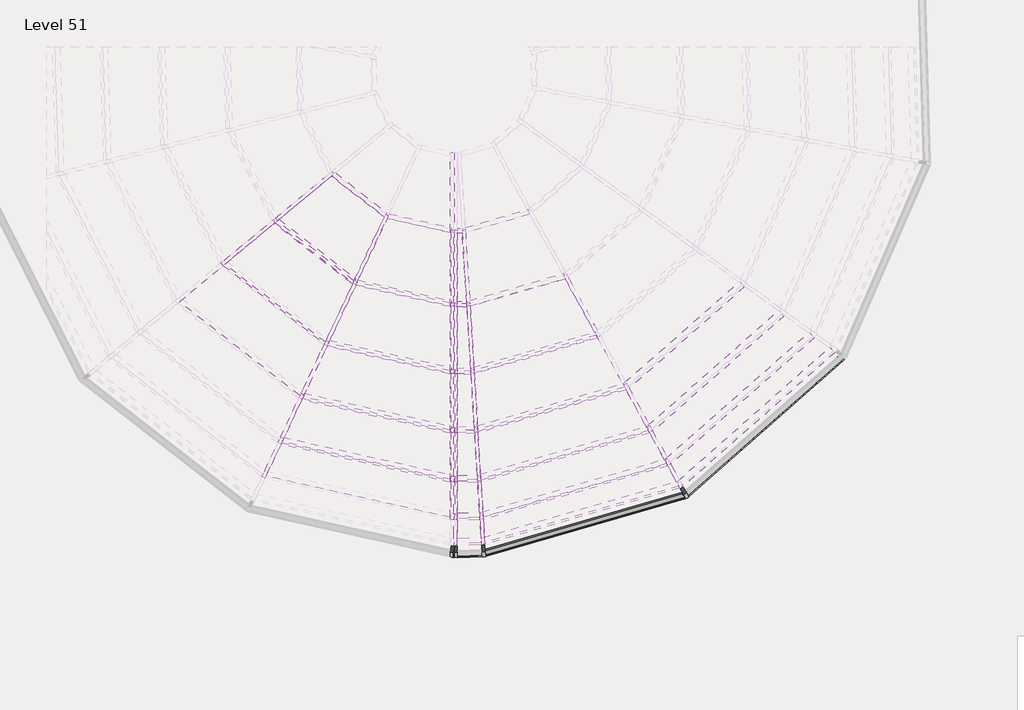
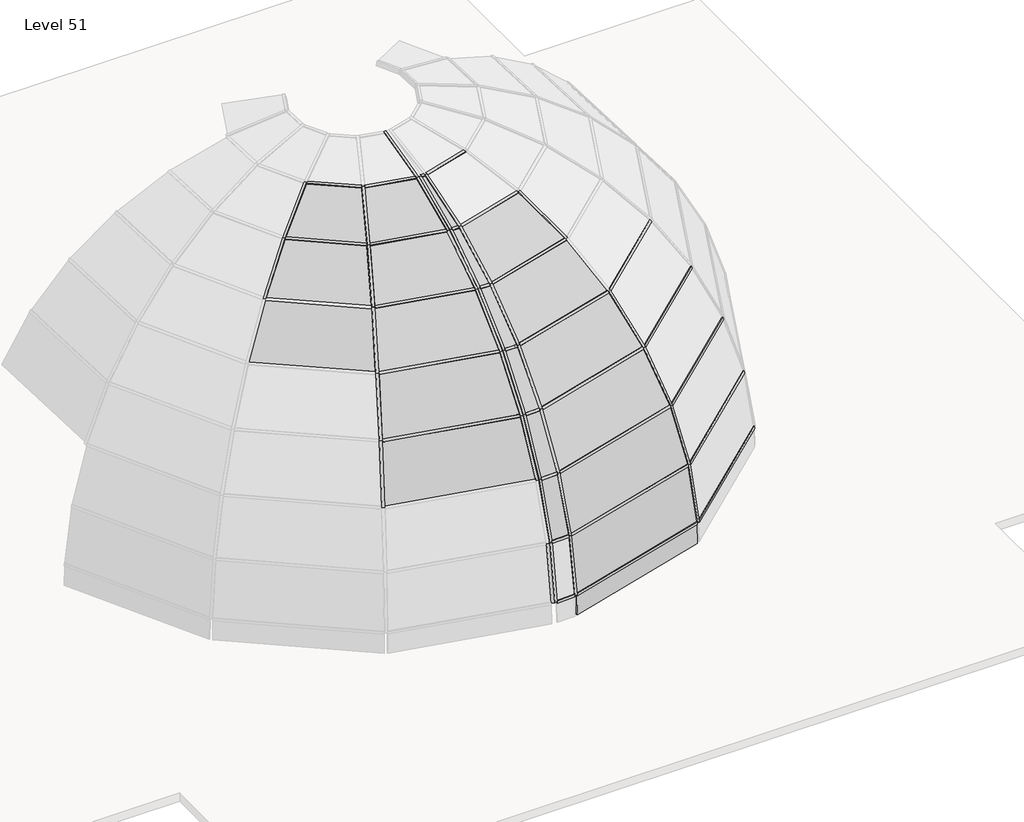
# One storey, part 2 of 5: 61 members, 21 plates.
"""IFC4 building model written with IfcOpenShell, lengths in millimetres."""

from ifc_helpers import new_model, si_unit, origin, place, context, project, spatial, transform, mapped, element, save
from components import member_1612663b, member_5eaec6db, member_d183bd50, member_3761eb40, member_c8fdef67, member_bab2e2f0, member_1b14bcb5, member_4ad3c4be, member_44404943, member_d9f9b3f1, member_bd7755a3, member_65743db0, member_8796500f, member_d21742c5, member_627e65e0, member_8f2bf440, member_7aba495a, member_8cadeb42, member_01029f2d, member_43068072, member_3efaebad, member_d292a8f8, member_6dba6968, member_6411af83, member_606bd935, member_34720ac7, member_73d42494, member_53f4afea, member_ac0e8256, member_b7186879, member_3d04d663, member_84afa52a, member_1f719ff4, member_3d2e33c7, member_de41bbd8, member_05436e89, member_70710cef, system_panel_glazed_4b6f7700, system_panel_glazed_05ceb18a, system_panel_glazed_4ea4b272, system_panel_glazed_3717604a, system_panel_glazed_08e752b3, system_panel_glazed_176c9cdb, system_panel_glazed_a0e9b47a, system_panel_glazed_7ce28d7e, system_panel_glazed_21487f38, system_panel_glazed_91a8511b, system_panel_glazed_bc7ae3a6, system_panel_glazed_24f176ce, system_panel_glazed_5c68d9ee, system_panel_glazed_73e2dce4, system_panel_glazed_0a8d51ec, system_panel_glazed_cf9631f2, system_panel_glazed_53c58da0, system_panel_glazed_7f2b973a, system_panel_glazed_a149731e

model = new_model("IFC4")

# Units and contexts
model_context = context("Model", 3, world=origin())
ifc_project = project(units=[si_unit("LENGTHUNIT", "METRE", prefix="MILLI")], contexts=[model_context])

# Site, building, storey
site = spatial("IfcSite", under=ifc_project)
building = spatial("IfcBuilding", under=site)
storey = spatial("IfcBuildingStorey", under=building, Name="Level 51", Elevation=152400.0)

# Members
placement = place(None, origin())
member_shape = member_1612663b(model_context)
element("IfcMember", 1, ObjectType="Rectangular Mullion : 2.5\" x 5\" rectangular", at=placement, inside=storey, context=model_context, shape_type="MappedRepresentation", body=[
    mapped(member_shape, transform((1205.288179, -8100.0865002, 161037.7653816), x_axis=(-0.6371882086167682, 0.7707082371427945, 0.0), y_axis=(-0.3126719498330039, -0.2585036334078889, 0.9140088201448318), z_axis=(0.7044341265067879, 0.5823956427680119, 0.4056943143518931))),
])
element("IfcMember", 2, ObjectType="Rectangular Mullion : 2.5\" x 5\" rectangular", at=placement, inside=storey, context=model_context, shape_type="MappedRepresentation", body=[
    mapped(member_shape, transform((131.7305702, -8987.6574598, 160419.4872466), x_axis=(-0.6371882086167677, 0.7707082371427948, 0.0), y_axis=(-0.4253266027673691, -0.35164162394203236, 0.8339337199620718), z_axis=(0.6427195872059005, 0.5313727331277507, 0.5518646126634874))),
])
element("IfcMember", 3, ObjectType="Rectangular Mullion : 2.5\" x 5\" rectangular", at=placement, inside=storey, context=model_context, shape_type="MappedRepresentation", body=[
    mapped(member_shape, transform((2239.7600443, -8902.8854136, 161037.7653816), x_axis=(-0.9047619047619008, 0.4259177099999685, 0.0), y_axis=(-0.1727923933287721, -0.36705676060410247, 0.9140088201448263), z_axis=(0.3892925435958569, 0.8269603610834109, 0.40569431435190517))),
])
element("IfcMember", 4, ObjectType="Rectangular Mullion : 2.5\" x 5\" rectangular", at=placement, inside=storey, context=model_context, shape_type="MappedRepresentation", body=[
    mapped(member_shape, transform((1646.4782078, -10163.1730039, 160419.4872466), x_axis=(-0.9047619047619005, 0.4259177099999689, 0.0), y_axis=(-0.23504891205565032, -0.4993060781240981, 0.8339337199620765), z_axis=(0.35518714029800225, 0.7545114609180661, 0.55186461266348))),
])
element("IfcMember", 5, ObjectType="Rectangular Mullion : 2.5\" x 5\" rectangular", at=placement, inside=storey, context=model_context, shape_type="MappedRepresentation", body=[
    mapped(member_shape, transform((1105.173006, -11313.0484704, 159578.4455769), x_axis=(-0.9047619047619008, 0.42591770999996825, 0.0), y_axis=(-0.2907762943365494, -0.617685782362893, 0.7306937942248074), z_axis=(0.31121542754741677, 0.6611039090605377, 0.6827053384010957))),
])
element("IfcMember", 6, ObjectType="Rectangular Mullion : 2.5\" x 5\" rectangular", at=placement, inside=storey, context=model_context, shape_type="MappedRepresentation", body=[
    mapped(member_shape, transform((630.8806944, -12320.5708278, 158538.0026411), x_axis=(-0.9047619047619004, 0.42591770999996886, 0.0), y_axis=(-0.3384265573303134, -0.7189075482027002, 0.6071568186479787), z_axis=(0.2585988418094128, 0.5493323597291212, 0.7945820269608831))),
])
element("IfcMember", 7, ObjectType="Rectangular Mullion : 2.5\" x 5\" rectangular", at=placement, inside=storey, context=model_context, shape_type="MappedRepresentation", body=[
    mapped(member_shape, transform((236.7760595, -13157.753344, 157327.0596321), x_axis=(-0.9047619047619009, 0.4259177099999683, 0.0), y_axis=(-0.37667608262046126, -0.8001596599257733, 0.46675437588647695), z_axis=(0.1987989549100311, 0.42230157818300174, 0.8843869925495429))),
])
element("IfcMember", 8, ObjectType="Rectangular Mullion : 2.5\" x 5\" rectangular", at=placement, inside=storey, context=model_context, shape_type="MappedRepresentation", body=[
    mapped(member_shape, transform((5630.5620632, -10040.1034397, 160419.4872466), x_axis=(-0.8767485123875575, -0.4809491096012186, 0.0), y_axis=(0.26541879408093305, -0.48384647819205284, 0.8339337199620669), z_axis=(-0.4010796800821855, 0.7311501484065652, 0.551864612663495))),
])
element("IfcMember", 9, ObjectType="Rectangular Mullion : 2.5\" x 5\" rectangular", at=placement, inside=storey, context=model_context, shape_type="MappedRepresentation", body=[
    mapped(member_shape, transform((6777.3815269, -12130.7035443, 158538.0026411), x_axis=(-0.8767485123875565, -0.48094910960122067, 0.0), y_axis=(0.382153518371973, -0.6966486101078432, 0.6071568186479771), z_axis=(-0.292011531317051, 0.5323238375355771, 0.7945820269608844))),
])
element("IfcMember", 10, ObjectType="Rectangular Mullion : 2.5\" x 5\" rectangular", at=placement, inside=storey, context=model_context, shape_type="MappedRepresentation", body=[
    mapped(member_shape, transform((7222.4071007, -12941.9650727, 157327.0596321), x_axis=(-0.8767485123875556, -0.48094910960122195, 0.0), y_axis=(0.4253451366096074, -0.7753849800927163, 0.46675437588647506), z_axis=(-0.2244851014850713, 0.4092262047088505, 0.884386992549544))),
])
element("IfcMember", 11, ObjectType="Rectangular Mullion : 2.5\" x 5\" rectangular", at=placement, inside=storey, context=model_context, shape_type="MappedRepresentation", body=[
    mapped(member_shape, transform((7564.5223953, -13565.6258087, 155979.2538554), x_axis=(-0.8767485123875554, -0.48094910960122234, 0.0), y_axis=(0.45672161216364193, -0.8325828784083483, 0.3133865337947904), z_axis=(-0.15072297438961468, 0.2747611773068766, 0.9496256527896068))),
])
element("IfcMember", 12, ObjectType="Rectangular Mullion : 2.5\" x 5\" rectangular", at=placement, inside=storey, context=model_context, shape_type="MappedRepresentation", body=[
    mapped(member_shape, transform((3702.820148, -9182.9070376, 161037.7653816), x_axis=(-0.9980933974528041, -0.06172171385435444, 0.0), y_axis=(0.025040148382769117, -0.40492081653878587, 0.9140088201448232), z_axis=(-0.05641419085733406, 0.9122661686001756, 0.4056943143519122))),
])
element("IfcMember", 13, ObjectType="Rectangular Mullion : 2.5\" x 5\" rectangular", at=placement, inside=storey, context=model_context, shape_type="MappedRepresentation", body=[
    mapped(member_shape, transform((3788.7953748, -10573.2006786, 160419.4872466), x_axis=(-0.998093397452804, -0.06172171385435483, 0.0), y_axis=(0.03406202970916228, -0.5508124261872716, 0.8339337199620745), z_axis=(-0.05147181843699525, 0.8323437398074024, 0.5518646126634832))),
])
element("IfcMember", 14, ObjectType="Rectangular Mullion : 2.5\" x 5\" rectangular", at=placement, inside=storey, context=model_context, shape_type="MappedRepresentation", body=[
    mapped(member_shape, transform((3867.2384261, -11841.692538, 159578.4455769), x_axis=(-0.9980933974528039, -0.06172171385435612, 0.0), y_axis=(0.0421377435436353, -0.6814036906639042, 0.7306937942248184), z_axis=(-0.04509967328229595, 0.7293006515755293, 0.6827053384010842))),
])
element("IfcMember", 15, ObjectType="Rectangular Mullion : 2.5\" x 5\" rectangular", at=placement, inside=storey, context=model_context, shape_type="MappedRepresentation", body=[
    mapped(member_shape, transform((3935.9703282, -12953.146731, 158538.0026411), x_axis=(-0.9980933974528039, -0.06172171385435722, 0.0), y_axis=(0.04904296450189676, -0.7930670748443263, 0.6071568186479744), z_axis=(-0.037474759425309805, 0.605999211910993, 0.7945820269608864))),
])
element("IfcMember", 16, ObjectType="Rectangular Mullion : 2.5\" x 5\" rectangular", at=placement, inside=storey, context=model_context, shape_type="MappedRepresentation", body=[
    mapped(member_shape, transform((3993.0818616, -13876.68953, 157327.0596321), x_axis=(-0.9980933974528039, -0.06172171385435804, 0.0), y_axis=(0.05458588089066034, -0.8827008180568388, 0.4667543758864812), z_axis=(-0.028808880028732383, 0.46586446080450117, 0.8843869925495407))),
])
element("IfcMember", 17, ObjectType="Rectangular Mullion : 2.5\" x 5\" rectangular", at=placement, inside=storey, context=model_context, shape_type="MappedRepresentation", body=[
    mapped(member_shape, transform((4036.9865947, -14586.6669682, 155979.2538554), x_axis=(-0.9980933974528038, -0.061721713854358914, 0.0), y_axis=(0.05861252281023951, -0.947815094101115, 0.31338653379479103), z_axis=(-0.01934275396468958, 0.312789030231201, 0.9496256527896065))),
])
member_2_shape = member_5eaec6db(model_context)
element("IfcMember", 18, ObjectType="Rectangular Mullion : 2.5\" x 5\" rectangular", at=placement, inside=storey, context=model_context, shape_type="MappedRepresentation", body=[
    mapped(member_2_shape, transform((7794.2242083, -13984.3618429, 154532.0243606), x_axis=(-0.8767485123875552, -0.4809491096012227, 0.0), y_axis=(0.47541137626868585, -0.8666534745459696, 0.151313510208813), z_axis=(-0.072774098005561, 0.13266389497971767, 0.9884858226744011))),
])
element("IfcMember", 19, ObjectType="Rectangular Mullion : 2.5\" x 5\" rectangular", at=placement, inside=storey, context=model_context, shape_type="MappedRepresentation", body=[
    mapped(member_2_shape, transform((4066.4649518, -15063.3574503, 154532.0243606), x_axis=(-0.9980933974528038, -0.061721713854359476, 0.0), y_axis=(0.061011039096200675, -0.9866011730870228, 0.1513135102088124), z_axis=(-0.009339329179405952, 0.15102501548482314, 0.9884858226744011))),
])
member_3_shape = member_d183bd50(model_context)
element("IfcMember", 20, ObjectType="Rectangular Mullion : 2.5\" x 5\" rectangular", at=placement, inside=storey, context=model_context, shape_type="MappedRepresentation", body=[
    mapped(member_3_shape, transform((7928.9656184, -14165.5650135, 153025.5719668), x_axis=(0.04631017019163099, -0.052617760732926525, -0.9975403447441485), y_axis=(0.6590554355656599, -0.7488208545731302, 0.07009465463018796), z_axis=(-0.7506672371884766, -0.6606804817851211, 0.0))),
])
element("IfcMember", 21, ObjectType="Rectangular Mullion : 2.5\" x 5\" rectangular", at=placement, inside=storey, context=model_context, shape_type="MappedRepresentation", body=[
    mapped(member_3_shape, transform((4111.1962072, -15284.691929, 153025.5719668), x_axis=(0.019488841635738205, -0.0673308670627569, -0.9975403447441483), y_axis=(0.2773521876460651, -0.9582079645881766, 0.07009465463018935), z_axis=(-0.9605706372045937, -0.2780360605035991, 0.0))),
])
member_4_shape = member_3761eb40(model_context)
element("IfcMember", 22, ObjectType="Rectangular Mullion : 2.5\" x 5\" rectangular", at=placement, inside=storey, context=model_context, shape_type="MappedRepresentation", body=[
    mapped(member_4_shape, transform((3581.1067798, -15308.9521017, 153025.5719668), x_axis=(0.0021133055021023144, -0.06841322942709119, -0.9976548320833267), y_axis=(0.030803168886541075, -0.9971791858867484, 0.06844586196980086), z_axis=(-0.9995232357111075, -0.03087557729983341, 0.0))),
])
member_5_shape = member_c8fdef67(model_context)
element("IfcMember", 23, ObjectType="Rectangular Mullion : 2.5\" x 5\" rectangular", at=placement, inside=storey, context=model_context, shape_type="MappedRepresentation", body=[
    mapped(member_5_shape, transform((3581.1067798, -14600.7492346, 155979.2538554), x_axis=(0.012090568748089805, -0.3914033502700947, -0.9201397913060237), y_axis=(0.028409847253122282, -0.9197011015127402, 0.3915900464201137), z_axis=(-0.9995232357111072, -0.030875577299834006, 0.0))),
])
member_6_shape = member_bab2e2f0(model_context)
element("IfcMember", 24, ObjectType="Rectangular Mullion : 2.5\" x 5\" rectangular", at=placement, inside=storey, context=model_context, shape_type="MappedRepresentation", body=[
    mapped(member_6_shape, transform((7818.0578931, -13963.3852376, 154532.0243606), x_axis=(0.1576349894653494, -0.1791053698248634, -0.9711191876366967), y_axis=(0.6415994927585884, -0.728987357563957, 0.23859489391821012), z_axis=(-0.750667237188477, -0.6606804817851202, 0.0))),
])
element("IfcMember", 25, ObjectType="Rectangular Mullion : 2.5\" x 5\" rectangular", at=placement, inside=storey, context=model_context, shape_type="MappedRepresentation", body=[
    mapped(member_6_shape, transform((4096.9630695, -15054.5298054, 154532.0243606), x_axis=(0.06633798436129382, -0.2291872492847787, -0.9711191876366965), y_axis=(0.27000615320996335, -0.9328285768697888, 0.23859489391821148), z_axis=(-0.9605706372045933, -0.27803606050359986, 0.0))),
])
member_7_shape = member_1b14bcb5(model_context)
element("IfcMember", 26, ObjectType="Rectangular Mullion : 2.5\" x 5\" rectangular", at=placement, inside=storey, context=model_context, shape_type="MappedRepresentation", body=[
    mapped(member_7_shape, transform((3581.1067798, -15078.3503121, 154532.0243606), x_axis=(0.0072022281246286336, -0.23315497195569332, -0.9724129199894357), y_axis=(0.030023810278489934, -0.9719493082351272, 0.23326618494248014), z_axis=(-0.9995232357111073, -0.030875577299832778, 0.0))),
])
member_8_shape = member_4ad3c4be(model_context)
element("IfcMember", 27, ObjectType="Rectangular Mullion : 2.5\" x 5\" rectangular", at=placement, inside=storey, context=model_context, shape_type="MappedRepresentation", body=[
    mapped(member_8_shape, transform((7246.2407855, -12920.9884674, 157327.0596321), x_axis=(0.3621663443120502, -0.41149453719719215, -0.8363658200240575), y_axis=(0.5525705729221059, -0.6278324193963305, 0.5481717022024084), z_axis=(-0.7506672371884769, -0.6606804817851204, 0.0))),
])
element("IfcMember", 28, ObjectType="Rectangular Mullion : 2.5\" x 5\" rectangular", at=placement, inside=storey, context=model_context, shape_type="MappedRepresentation", body=[
    mapped(member_8_shape, transform((4023.5799793, -13867.8618851, 157327.0596321), x_axis=(0.15241150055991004, -0.5265576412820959, -0.8363658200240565), y_axis=(0.23253985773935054, -0.8033884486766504, 0.5481717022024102), z_axis=(-0.9605706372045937, -0.27803606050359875, 0.0))),
])
member_9_shape = member_44404943(model_context)
element("IfcMember", 29, ObjectType="Rectangular Mullion : 2.5\" x 5\" rectangular", at=placement, inside=storey, context=model_context, shape_type="MappedRepresentation", body=[
    mapped(member_9_shape, transform((3581.1067798, -13889.4155658, 157327.0596321), x_axis=(0.01664231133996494, -0.5387551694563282, -0.8422979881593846), y_axis=(0.02600643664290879, -0.8418964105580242, 0.5390121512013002), z_axis=(-0.9995232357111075, -0.030875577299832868, 0.0))),
])
member_10_shape = member_d9f9b3f1(model_context)
element("IfcMember", 30, ObjectType="Rectangular Mullion : 2.5\" x 5\" rectangular", at=placement, inside=storey, context=model_context, shape_type="MappedRepresentation", body=[
    mapped(member_10_shape, transform((4067.4847125, -14577.8393233, 155979.2538554), x_axis=(0.11109508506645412, -0.38381595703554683, -0.916702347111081), y_axis=(0.2548763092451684, -0.8805573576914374, 0.3995707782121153), z_axis=(-0.9605706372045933, -0.27803606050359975, 0.0))),
])
element("IfcMember", 31, ObjectType="Rectangular Mullion : 2.5\" x 5\" rectangular", at=placement, inside=storey, context=model_context, shape_type="MappedRepresentation", body=[
    mapped(member_10_shape, transform((7588.3560801, -13544.6492034, 155979.2538554), x_axis=(0.2639886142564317, -0.29994469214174, -0.9167023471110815), y_axis=(0.6056473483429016, -0.6881384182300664, 0.3995707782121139), z_axis=(-0.7506672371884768, -0.6606804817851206, 0.0))),
])
member_11_shape = member_bd7755a3(model_context)
element("IfcMember", 32, ObjectType="Rectangular Mullion : 2.5\" x 5\" rectangular", at=placement, inside=storey, context=model_context, shape_type="MappedRepresentation", body=[
    mapped(member_11_shape, transform((3897.7365439, -11832.8648931, 159578.4455769), x_axis=(0.2202924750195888, -0.7610756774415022, -0.6101106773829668), y_axis=(0.16963276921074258, -0.5860544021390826, 0.7923162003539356), z_axis=(-0.9605706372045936, -0.2780360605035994, 0.0))),
])
member_12_shape = member_65743db0(model_context)
element("IfcMember", 33, ObjectType="Rectangular Mullion : 2.5\" x 5\" rectangular", at=placement, inside=storey, context=model_context, shape_type="MappedRepresentation", body=[
    mapped(member_12_shape, transform((1136.1578333, -11319.9768884, 159578.4455769), x_axis=(-0.17289756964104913, -0.7732214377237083, -0.6101106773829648), y_axis=(-0.13313706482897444, -0.5954070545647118, 0.792316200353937), z_axis=(-0.975900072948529, 0.21821789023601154, 0.0))),
])
member_13_shape = member_8796500f(model_context)
element("IfcMember", 34, ObjectType="Rectangular Mullion : 2.5\" x 5\" rectangular", at=placement, inside=storey, context=model_context, shape_type="MappedRepresentation", body=[
    mapped(member_13_shape, transform((3581.1067798, -10579.6162425, 160419.4872466), x_axis=(0.027081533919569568, -0.8767001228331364, -0.4802743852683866), y_axis=(0.014828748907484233, -0.48004540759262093, 0.8771183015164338), z_axis=(-0.9995232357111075, -0.030875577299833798, 0.0))),
])
member_14_shape = member_d21742c5(model_context)
element("IfcMember", 35, ObjectType="Rectangular Mullion : 2.5\" x 5\" rectangular", at=placement, inside=storey, context=model_context, shape_type="MappedRepresentation", body=[
    mapped(member_14_shape, transform((156.8135256, -9007.1230151, 160419.4872466), x_axis=(-0.540671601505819, -0.6966994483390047, -0.4714701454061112), y_axis=(-0.28905285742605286, -0.3724681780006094, 0.8818820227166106), z_axis=(-0.7900143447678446, 0.613088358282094, 0.0))),
])
element("IfcMember", 36, ObjectType="Rectangular Mullion : 2.5\" x 5\" rectangular", at=placement, inside=storey, context=model_context, shape_type="MappedRepresentation", body=[
    mapped(member_14_shape, transform((3819.2934926, -10564.3730336, 160419.4872466), x_axis=(0.24519500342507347, -0.8471099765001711, -0.4714701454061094), y_axis=(0.13108570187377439, -0.45288037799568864, 0.8818820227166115), z_axis=(-0.9605706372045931, -0.2780360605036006, 0.0))),
])
member_15_shape = member_627e65e0(model_context)
element("IfcMember", 37, ObjectType="Rectangular Mullion : 2.5\" x 5\" rectangular", at=placement, inside=storey, context=model_context, shape_type="MappedRepresentation", body=[
    mapped(member_15_shape, transform((1677.4630352, -10170.101422, 160419.4872466), x_axis=(-0.1924424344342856, -0.8606287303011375, -0.4714701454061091), y_axis=(-0.10288322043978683, -0.46010774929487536, 0.8818820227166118), z_axis=(-0.9759000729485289, 0.2182178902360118, 0.0))),
])
member_16_shape = member_8f2bf440(model_context)
element("IfcMember", 38, ObjectType="Rectangular Mullion : 2.5\" x 5\" rectangular", at=placement, inside=storey, context=model_context, shape_type="MappedRepresentation", body=[
    mapped(member_16_shape, transform((1230.3711344, -8119.5520556, 161037.7653816), x_axis=(-0.5806365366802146, -0.7481975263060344, -0.321032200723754), y_axis=(-0.19682110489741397, -0.25362004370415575, 0.9470682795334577), z_axis=(-0.7900143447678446, 0.6130883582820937, 0.0))),
])
element("IfcMember", 39, ObjectType="Rectangular Mullion : 2.5\" x 5\" rectangular", at=placement, inside=storey, context=model_context, shape_type="MappedRepresentation", body=[
    mapped(member_16_shape, transform((3733.3182657, -9174.0793927, 161037.7653816), x_axis=(0.26331913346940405, -0.9097259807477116, -0.32103220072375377), y_axis=(0.0892585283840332, -0.30837410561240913, 0.9470682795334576), z_axis=(-0.9605706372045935, -0.2780360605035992, 0.0))),
])
member_17_shape = member_7aba495a(model_context)
element("IfcMember", 40, ObjectType="Rectangular Mullion : 2.5\" x 5\" rectangular", at=placement, inside=storey, context=model_context, shape_type="MappedRepresentation", body=[
    mapped(member_17_shape, transform((2270.7448716, -8909.8138317, 161037.7653816), x_axis=(-0.20666724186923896, -0.9242440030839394, -0.32103220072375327), y_axis=(-0.07005496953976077, -0.31329534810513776, 0.947068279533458), z_axis=(-0.9759000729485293, 0.2182178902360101, 0.0))),
])
member_18_shape = member_8cadeb42(model_context)
element("IfcMember", 41, ObjectType="Rectangular Mullion : 2.5\" x 5\" rectangular", at=placement, inside=storey, context=model_context, shape_type="MappedRepresentation", body=[
    mapped(member_18_shape, transform((3581.1067798, -9186.6668006, 161037.7653816), x_axis=(0.02916772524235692, -0.9442355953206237, -0.3279761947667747), y_axis=(0.010126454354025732, -0.3278198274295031, 0.9446859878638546), z_axis=(-0.9995232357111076, -0.03087557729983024, 0.0))),
])
member_19_shape = member_01029f2d(model_context)
element("IfcMember", 42, ObjectType="Rectangular Mullion : 2.5\" x 5\" rectangular", at=placement, inside=storey, context=model_context, shape_type="MappedRepresentation", body=[
    mapped(member_19_shape, transform((6801.2152117, -12109.726939, 158538.0026411), x_axis=(0.44940619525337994, -0.5106167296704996, -0.7330106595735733), y_axis=(0.48428583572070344, -0.550247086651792, 0.6802171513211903), z_axis=(-0.7506672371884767, -0.6606804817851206, 0.0))),
])
element("IfcMember", 43, ObjectType="Rectangular Mullion : 2.5\" x 5\" rectangular", at=placement, inside=storey, context=model_context, shape_type="MappedRepresentation", body=[
    mapped(member_19_shape, transform((3966.4684459, -12944.3190861, 158538.0026411), x_axis=(0.18912489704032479, -0.653396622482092, -0.7330106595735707), y_axis=(0.20380339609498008, -0.7041085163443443, 0.6802171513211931), z_axis=(-0.9605706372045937, -0.2780360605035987, 0.0))),
])
member_20_shape = member_43068072(model_context)
element("IfcMember", 44, ObjectType="Rectangular Mullion : 2.5\" x 5\" rectangular", at=placement, inside=storey, context=model_context, shape_type="MappedRepresentation", body=[
    mapped(member_20_shape, transform((3581.1067798, -12964.1085742, 158538.0026411), x_axis=(0.020730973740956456, -0.6711158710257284, -0.7410625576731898), y_axis=(0.02288073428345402, -0.7407092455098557, 0.671435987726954), z_axis=(-0.9995232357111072, -0.03087557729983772, 0.0))),
])
member_21_shape = member_3efaebad(model_context)
element("IfcMember", 45, ObjectType="Rectangular Mullion : 2.5\" x 5\" rectangular", at=placement, inside=storey, context=model_context, shape_type="MappedRepresentation", body=[
    mapped(member_21_shape, transform((267.7608868, -13164.681762, 157327.0596321), x_axis=(-0.11962087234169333, -0.5349608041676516, -0.8363658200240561), y_axis=(-0.18250998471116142, -0.8162094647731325, 0.5481717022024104), z_axis=(-0.9759000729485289, 0.21821789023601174, 0.0))),
])
member_22_shape = member_d292a8f8(model_context)
element("IfcMember", 46, ObjectType="Rectangular Mullion : 2.5\" x 5\" rectangular", at=placement, inside=storey, context=model_context, shape_type="MappedRepresentation", body=[
    mapped(member_22_shape, transform((3581.1067798, -11850.5312318, 159578.4455769), x_axis=(0.02424313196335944, -0.7848136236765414, -0.6192574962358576), y_axis=(0.019119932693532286, -0.6189622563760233, 0.785187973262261), z_axis=(-0.9995232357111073, -0.030875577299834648, 0.0))),
])
member_23_shape = member_6dba6968(model_context)
element("IfcMember", 47, ObjectType="Rectangular Mullion : 2.5\" x 5\" rectangular", at=placement, inside=storey, context=model_context, shape_type="MappedRepresentation", body=[
    mapped(member_23_shape, transform((661.8655218, -12327.4992458, 158538.0026411), x_axis=(-0.14843555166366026, -0.6638239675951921, -0.7330106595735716), y_axis=(-0.1599560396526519, -0.7153451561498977, 0.6802171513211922), z_axis=(-0.9759000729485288, 0.21821789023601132, 0.0))),
])
member_24_shape = member_6411af83(model_context)
element("IfcMember", 48, ObjectType="Rectangular Mullion : 2.5\" x 5\" rectangular", at=placement, inside=storey, context=model_context, shape_type="MappedRepresentation", body=[
    mapped(member_24_shape, transform((3517.6370544, -14602.7098338, 155979.2538554), x_axis=(-0.9995700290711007, -0.027844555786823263, 0.009188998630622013), y_axis=(0.029321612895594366, -0.9492173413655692, 0.3132517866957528), z_axis=(0.0, 0.3133865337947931, 0.949625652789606))),
])
member_25_shape = member_606bd935(model_context)
element("IfcMember", 49, ObjectType="Rectangular Mullion : 2.5\" x 5\" rectangular", at=placement, inside=storey, context=model_context, shape_type="MappedRepresentation", body=[
    mapped(member_25_shape, transform((3517.6370544, -15080.3109113, 154532.0243606), x_axis=(-0.9995341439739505, -0.030168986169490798, 0.004618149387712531), y_axis=(0.030520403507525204, -0.9880253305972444, 0.15124301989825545), z_axis=(0.0, 0.1513135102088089, 0.9884858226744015))),
])
member_26_shape = member_34720ac7(model_context)
element("IfcMember", 50, ObjectType="Rectangular Mullion : 2.5\" x 5\" rectangular", at=placement, inside=storey, context=model_context, shape_type="MappedRepresentation", body=[
    mapped(member_26_shape, transform((3517.6370544, -9188.6273998, 161037.7653816), x_axis=(0.9984627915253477, -0.013759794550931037, 0.053690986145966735), y_axis=(-0.05542611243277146, -0.24787311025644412, 0.9672057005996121), z_axis=(0.0, -0.968694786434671, -0.2482547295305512))),
])
member_27_shape = member_73d42494(model_context)
element("IfcMember", 51, ObjectType="Rectangular Mullion : 2.5\" x 5\" rectangular", at=placement, inside=storey, context=model_context, shape_type="MappedRepresentation", body=[
    mapped(member_27_shape, transform((3517.6370544, -10581.5768417, 160419.4872466), x_axis=(0.9959105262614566, -0.03665246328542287, 0.08257615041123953), y_axis=(-0.09034502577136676, -0.4040352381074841, 0.9102710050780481), z_axis=(0.0, -0.9140088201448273, -0.40569431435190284))),
])
member_28_shape = member_53f4afea(model_context)
element("IfcMember", 52, ObjectType="Rectangular Mullion : 2.5\" x 5\" rectangular", at=placement, inside=storey, context=model_context, shape_type="MappedRepresentation", body=[
    mapped(member_28_shape, transform((3517.6370544, -11852.4918309, 159578.4455769), x_axis=(0.9924720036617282, -0.06758780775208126, 0.10213329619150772), y_axis=(-0.12247171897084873, -0.5477101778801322, 0.8276558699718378), z_axis=(0.0, -0.8339337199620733, -0.551864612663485))),
])
member_29_shape = member_ac0e8256(model_context)
element("IfcMember", 53, ObjectType="Rectangular Mullion : 2.5\" x 5\" rectangular", at=placement, inside=storey, context=model_context, shape_type="MappedRepresentation", body=[
    mapped(member_29_shape, transform((3517.6370544, -12966.0691733, 158538.0026411), x_axis=(0.9885476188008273, -0.10302655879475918, 0.1102684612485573), y_axis=(-0.1509092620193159, -0.6748867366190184, 0.7223256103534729), z_axis=(0.0, -0.730693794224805, -0.6827053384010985))),
])
member_30_shape = member_b7186879(model_context)
element("IfcMember", 54, ObjectType="Rectangular Mullion : 2.5\" x 5\" rectangular", at=placement, inside=storey, context=model_context, shape_type="MappedRepresentation", body=[
    mapped(member_30_shape, transform((3517.6370544, -13891.3761649, 157327.0596321), x_axis=(0.9845801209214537, -0.13899959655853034, 0.10621251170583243), y_axis=(-0.1749342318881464, -0.7823296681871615, 0.59779453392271), z_axis=(0.0, -0.6071568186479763, -0.7945820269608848))),
])
member_31_shape = member_3d04d663(model_context)
element("IfcMember", 55, ObjectType="Rectangular Mullion : 2.5\" x 5\" rectangular", at=placement, inside=storey, context=model_context, shape_type="MappedRepresentation", body=[
    mapped(member_31_shape, transform((3517.6370544, -14602.7098338, 155979.2538554), x_axis=(0.9810019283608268, -0.17156929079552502, 0.0905494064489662), y_axis=(-0.1939979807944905, -0.8675853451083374, 0.4578869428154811), z_axis=(0.0, -0.46675437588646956, -0.8843869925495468))),
])
member_32_shape = member_84afa52a(model_context)
element("IfcMember", 56, ObjectType="Rectangular Mullion : 2.5\" x 5\" rectangular", at=placement, inside=storey, context=model_context, shape_type="MappedRepresentation", body=[
    mapped(member_32_shape, transform((3517.6370544, -15310.9127008, 153025.5719668), x_axis=(0.9764325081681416, -0.2133379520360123, 0.032656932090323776), y_axis=(-0.21582297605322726, -0.9651896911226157, 0.14774743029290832), z_axis=(0.0, -0.151313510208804, -0.9884858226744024))),
])
member_33_shape = member_1f719ff4(model_context)
element("IfcMember", 57, ObjectType="Rectangular Mullion : 2.5\" x 5\" rectangular", at=placement, inside=storey, context=model_context, shape_type="MappedRepresentation", body=[
    mapped(member_33_shape, transform((3517.6370544, -9188.6273998, 161037.7653816), x_axis=(-0.9999214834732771, -0.005083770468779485, 0.011453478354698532), y_axis=(0.012531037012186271, -0.4056624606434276, 0.9139370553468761), z_axis=(0.0, 0.9140088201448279, 0.4056943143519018))),
])
member_34_shape = member_3d2e33c7(model_context)
element("IfcMember", 58, ObjectType="Rectangular Mullion : 2.5\" x 5\" rectangular", at=placement, inside=storey, context=model_context, shape_type="MappedRepresentation", body=[
    mapped(member_34_shape, transform((3517.6370544, -10581.5768417, 160419.4872466), x_axis=(-0.9998547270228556, -0.009406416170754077, 0.01421422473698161), y_axis=(0.01704478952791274, -0.5517844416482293, 0.8338125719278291), z_axis=(0.0, 0.8339337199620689, 0.5518646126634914))),
])
member_35_shape = member_de41bbd8(model_context)
element("IfcMember", 59, ObjectType="Rectangular Mullion : 2.5\" x 5\" rectangular", at=placement, inside=storey, context=model_context, shape_type="MappedRepresentation", body=[
    mapped(member_35_shape, transform((3517.6370544, -11852.4918309, 159578.4455769), x_axis=(-0.999777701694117, -0.014394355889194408, 0.015406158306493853), y_axis=(0.0210842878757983, -0.6825535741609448, 0.7305313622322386), z_axis=(0.0, 0.7306937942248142, 0.6827053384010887))),
])
member_36_shape = member_05436e89(model_context)
element("IfcMember", 60, ObjectType="Rectangular Mullion : 2.5\" x 5\" rectangular", at=placement, inside=storey, context=model_context, shape_type="MappedRepresentation", body=[
    mapped(member_36_shape, transform((3517.6370544, -12966.0691733, 158538.0026411), x_axis=(-0.9996989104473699, -0.01949704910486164, 0.014898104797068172), y_axis=(0.024537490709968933, -0.794342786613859, 0.6069740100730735), z_axis=(0.0, 0.6071568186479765, 0.7945820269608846))),
])
member_37_shape = member_70710cef(model_context)
element("IfcMember", 61, ObjectType="Rectangular Mullion : 2.5\" x 5\" rectangular", at=placement, inside=storey, context=model_context, shape_type="MappedRepresentation", body=[
    mapped(member_37_shape, transform((3517.6370544, -13891.3761649, 157327.0596321), x_axis=(-0.9996270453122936, -0.024151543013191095, 0.012746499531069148), y_axis=(0.027308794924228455, -0.8840571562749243, 0.4665802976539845), z_axis=(0.0, 0.4667543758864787, 0.884386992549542))),
])

# Plates
system_panel_glazed_shape = system_panel_glazed_4b6f7700(model_context)
element("IfcPlate", 62, ObjectType="System Panel : Glazed", at=placement, inside=storey, context=model_context, shape_type="MappedRepresentation", body=[
    mapped(system_panel_glazed_shape, transform((2856.5817317, -9070.4257554, 161024.6204715), x_axis=(-0.9759000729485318, 0.21821789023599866, 0.0), y_axis=(0.09034502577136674, 0.40403523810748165, -0.910271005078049), z_axis=(-0.19863741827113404, -0.8883335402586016, -0.41401291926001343))),
])
system_panel_glazed_2_shape = system_panel_glazed_05ceb18a(model_context)
element("IfcPlate", 63, ObjectType="System Panel : Glazed", at=placement, inside=storey, context=model_context, shape_type="MappedRepresentation", body=[
    mapped(system_panel_glazed_2_shape, transform((1704.805181, -8524.318244, 161024.6204715), x_axis=(-0.7900143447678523, 0.6130883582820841, 0.0), y_axis=(0.25382650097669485, 0.32707614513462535, -0.910271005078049), z_axis=(-0.5580765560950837, -0.7191271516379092, -0.4140129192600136))),
])
system_panel_glazed_3_shape = system_panel_glazed_4ea4b272(model_context)
element("IfcPlate", 64, ObjectType="System Panel : Glazed", at=placement, inside=storey, context=model_context, shape_type="MappedRepresentation", body=[
    mapped(system_panel_glazed_3_shape, transform((3626.9982868, -9214.2805406, 161024.879455), x_axis=(-0.9995232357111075, -0.030875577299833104, 0.0), y_axis=(-0.012531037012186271, 0.4056624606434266, -0.9139370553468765), z_axis=(0.02821833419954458, -0.9135013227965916, -0.40585595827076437))),
])
system_panel_glazed_4_shape = system_panel_glazed_3717604a(model_context)
element("IfcPlate", 65, ObjectType="System Panel : Glazed", at=placement, inside=storey, context=model_context, shape_type="MappedRepresentation", body=[
    mapped(system_panel_glazed_4_shape, transform((2560.5677922, -10394.4966617, 160401.668006), x_axis=(-0.975900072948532, 0.21821789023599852, 0.0), y_axis=(0.1224717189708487, 0.5477101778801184, -0.8276558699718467), z_axis=(-0.180609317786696, -0.807709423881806, -0.5612359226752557))),
])
system_panel_glazed_5_shape = system_panel_glazed_08e752b3(model_context)
element("IfcPlate", 66, ObjectType="System Panel : Glazed", at=placement, inside=storey, context=model_context, shape_type="MappedRepresentation", body=[
    mapped(system_panel_glazed_5_shape, transform((872.9936078, -9596.1752872, 160401.668006), x_axis=(-0.7900143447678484, 0.6130883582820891, 0.0), y_axis=(0.34408721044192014, 0.44338442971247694, -0.8276558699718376), z_axis=(-0.5074261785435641, -0.6538600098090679, -0.5612359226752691))),
])
element("IfcPlate", 67, ObjectType="System Panel : Glazed", at=placement, inside=storey, context=model_context, shape_type="MappedRepresentation", body=[
    mapped(system_panel_glazed_5_shape, transform((4716.9849712, -10331.8940053, 160401.668006), x_axis=(-0.9605706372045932, -0.27803606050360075, 0.0), y_axis=(-0.1560438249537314, 0.5391067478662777, -0.8276558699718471), z_axis=(0.23011817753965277, -0.7950219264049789, -0.5612359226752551))),
])
system_panel_glazed_6_shape = system_panel_glazed_176c9cdb(model_context)
element("IfcPlate", 68, ObjectType="System Panel : Glazed", at=placement, inside=storey, context=model_context, shape_type="MappedRepresentation", body=[
    mapped(system_panel_glazed_6_shape, transform((3669.9062945, -10603.3593753, 160401.9597341), x_axis=(-0.9995232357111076, -0.030875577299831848, 0.0), y_axis=(-0.017044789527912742, 0.5517844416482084, -0.8338125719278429), z_axis=(0.025744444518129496, -0.8334150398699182, -0.5520476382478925))),
])
system_panel_glazed_7_shape = system_panel_glazed_a0e9b47a(model_context)
element("IfcPlate", 69, ObjectType="System Panel : Glazed", at=placement, inside=storey, context=model_context, shape_type="MappedRepresentation", body=[
    mapped(system_panel_glazed_7_shape, transform((2290.707263, -11601.6421802, 159556.4887654), x_axis=(-0.9759000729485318, 0.2182178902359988, 0.0), y_axis=(0.1509092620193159, 0.6748867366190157, -0.7223256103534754), z_axis=(-0.15762437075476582, -0.7049176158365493, -0.6915531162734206))),
])
system_panel_glazed_8_shape = system_panel_glazed_7ce28d7e(model_context)
element("IfcPlate", 70, ObjectType="System Panel : Glazed", at=placement, inside=storey, context=model_context, shape_type="MappedRepresentation", body=[
    mapped(system_panel_glazed_8_shape, transform((114.6389935, -10573.3770488, 159556.4887654), x_axis=(-0.7900143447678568, 0.6130883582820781, 0.0), y_axis=(0.42398316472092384, 0.546336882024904, -0.7223256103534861), z_axis=(-0.4428494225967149, -0.5706475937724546, -0.6915531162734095))),
])
element("IfcPlate", 71, ObjectType="System Panel : Glazed", at=placement, inside=storey, context=model_context, shape_type="MappedRepresentation", body=[
    mapped(system_panel_glazed_8_shape, transform((5060.8993949, -11520.0639735, 159556.4887654), x_axis=(-0.9605706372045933, -0.2780360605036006, 0.0), y_axis=(-0.19227670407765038, 0.6642856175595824, -0.722325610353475), z_axis=(0.20083256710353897, -0.6938447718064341, -0.6915531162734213))),
])
system_panel_glazed_9_shape = system_panel_glazed_21487f38(model_context)
element("IfcPlate", 72, ObjectType="System Panel : Glazed", at=placement, inside=storey, context=model_context, shape_type="MappedRepresentation", body=[
    mapped(system_panel_glazed_9_shape, transform((3709.0253509, -11869.7852224, 159556.764164), x_axis=(-0.9995232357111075, -0.03087557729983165, 0.0), y_axis=(-0.021084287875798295, 0.6825535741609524, -0.7305313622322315), z_axis=(0.022555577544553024, -0.7301830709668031, -0.6828791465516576))),
])
system_panel_glazed_10_shape = system_panel_glazed_91a8511b(model_context)
element("IfcPlate", 73, ObjectType="System Panel : Glazed", at=placement, inside=storey, context=model_context, shape_type="MappedRepresentation", body=[
    mapped(system_panel_glazed_10_shape, transform((2054.4868946, -12658.3475399, 158512.550274), x_axis=(-0.9759000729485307, 0.21821789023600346, 0.0), y_axis=(0.1749342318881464, 0.782329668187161, -0.5977945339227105), z_axis=(-0.13044946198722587, -0.5833877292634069, -0.8016493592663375))),
])
system_panel_glazed_11_shape = system_panel_glazed_bc7ae3a6(model_context)
element("IfcPlate", 74, ObjectType="System Panel : Glazed", at=placement, inside=storey, context=model_context, shape_type="MappedRepresentation", body=[
    mapped(system_panel_glazed_11_shape, transform((5361.9530455, -12560.1567457, 158512.550274), x_axis=(-0.9605706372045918, -0.2780360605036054, 0.0), y_axis=(-0.22288742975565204, 0.7700408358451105, -0.5977945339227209), z_axis=(0.16620843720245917, -0.5742238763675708, -0.8016493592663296))),
])
system_panel_glazed_12_shape = system_panel_glazed_24f176ce(model_context)
element("IfcPlate", 75, ObjectType="System Panel : Glazed", at=placement, inside=storey, context=model_context, shape_type="MappedRepresentation", body=[
    mapped(system_panel_glazed_12_shape, transform((3743.2689279, -12978.3799531, 158512.7702278), x_axis=(-0.9995232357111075, -0.030875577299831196, 0.0), y_axis=(-0.024537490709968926, 0.7943427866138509, -0.6069740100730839), z_axis=(0.01874067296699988, -0.6066846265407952, -0.7947216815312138))),
])
system_panel_glazed_13_shape = system_panel_glazed_5c68d9ee(model_context)
element("IfcPlate", 76, ObjectType="System Panel : Glazed", at=placement, inside=storey, context=model_context, shape_type="MappedRepresentation", body=[
    mapped(system_panel_glazed_13_shape, transform((1858.4607192, -13535.269983, 157298.8335509), x_axis=(-0.9759000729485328, 0.2182178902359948, 0.0), y_axis=(0.1939979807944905, 0.8675853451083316, -0.4578869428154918), z_axis=(-0.09991912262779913, -0.4468519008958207, -0.8890104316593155))),
])
system_panel_glazed_14_shape = system_panel_glazed_73e2dce4(model_context)
element("IfcPlate", 77, ObjectType="System Panel : Glazed", at=placement, inside=storey, context=model_context, shape_type="MappedRepresentation", body=[
    mapped(system_panel_glazed_14_shape, transform((5611.7865445, -13423.2919912, 157298.8335509), x_axis=(-0.9605706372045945, -0.27803606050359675, 0.0), y_axis=(-0.24717695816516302, 0.8539573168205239, -0.4578869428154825), z_axis=(0.12730908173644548, -0.43983275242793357, -0.8890104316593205))),
])
system_panel_glazed_15_shape = system_panel_glazed_0a8d51ec(model_context)
element("IfcPlate", 78, ObjectType="System Panel : Glazed", at=placement, inside=storey, context=model_context, shape_type="MappedRepresentation", body=[
    mapped(system_panel_glazed_15_shape, transform((3771.6859258, -13898.3495085, 157298.9774288), x_axis=(-0.9995232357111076, -0.030875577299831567, 0.0), y_axis=(-0.02730879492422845, 0.8840571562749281, -0.46658029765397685), z_axis=(0.014405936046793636, -0.46635784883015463, -0.8844788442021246))),
])
system_panel_glazed_16_shape = system_panel_glazed_cf9631f2(model_context)
element("IfcPlate", 79, ObjectType="System Panel : Glazed", at=placement, inside=storey, context=model_context, shape_type="MappedRepresentation", body=[
    mapped(system_panel_glazed_16_shape, transform((5803.4606238, -14085.4956355, 155949.0324897), x_axis=(-0.9605706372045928, -0.2780360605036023, 0.0), y_axis=(-0.26464974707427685, 0.91432304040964, -0.3065516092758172), z_axis=(0.08523240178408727, -0.2944644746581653, -0.9518540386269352))),
])
system_panel_glazed_17_shape = system_panel_glazed_53c58da0(model_context)
element("IfcPlate", 80, ObjectType="System Panel : Glazed", at=placement, inside=storey, context=model_context, shape_type="MappedRepresentation", body=[
    mapped(system_panel_glazed_17_shape, transform((3793.4870794, -14604.1392307, 155949.1018294), x_axis=(-0.9995232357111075, -0.03087557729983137, 0.0), y_axis=(-0.029321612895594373, 0.9492173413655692, -0.31325178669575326), z_axis=(0.009671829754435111, -0.31310243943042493, -0.9496701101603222))),
])
system_panel_glazed_18_shape = system_panel_glazed_7f2b973a(model_context)
element("IfcPlate", 81, ObjectType="System Panel : Glazed", at=placement, inside=storey, context=model_context, shape_type="MappedRepresentation", body=[
    mapped(system_panel_glazed_18_shape, transform((5931.6488419, -14528.3656651, 154500.6228129), x_axis=(-0.9605706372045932, -0.27803606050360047, 0.0), y_axis=(-0.2749846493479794, 0.9500284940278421, -0.14774743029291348), z_axis=(0.041079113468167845, -0.14192184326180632, -0.9890251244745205))),
])
system_panel_glazed_19_shape = system_panel_glazed_a149731e(model_context)
element("IfcPlate", 82, ObjectType="System Panel : Glazed", at=placement, inside=storey, context=model_context, shape_type="MappedRepresentation", body=[
    mapped(system_panel_glazed_19_shape, transform((5993.2098797, -14741.0493193, 152993.8396842), x_axis=(-0.9605706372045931, -0.27803606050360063, 0.0), y_axis=(-0.27788090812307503, 0.9600346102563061, -0.03340281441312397), z_axis=(0.009287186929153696, -0.03208576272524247, -0.999441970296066))),
])

save(model, "model.ifc")
